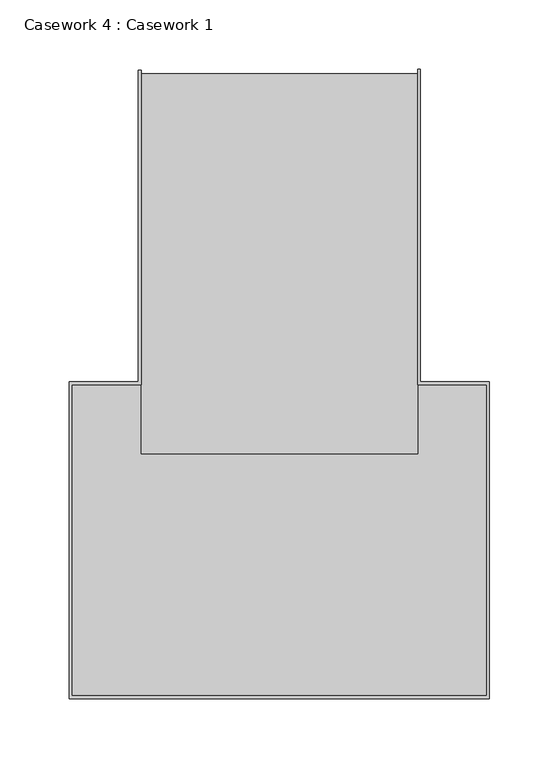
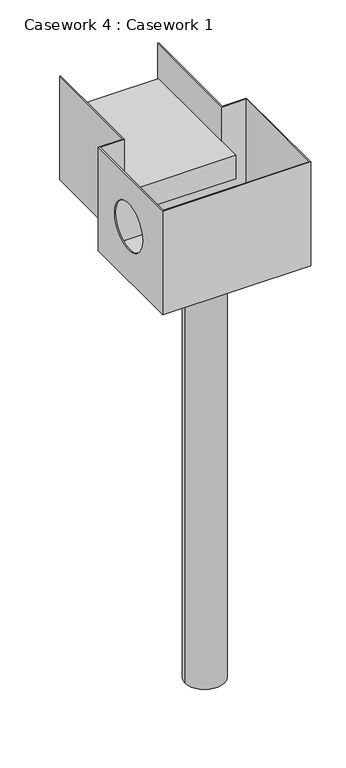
"""IFC4 building model written with IfcOpenShell, lengths in millimetres: furniture geometry, Casework 4 : Casework 1."""

from ifc_helpers import new_model, si_unit, point, frame, frame_2d, origin, place, context, project, spatial, polyline, circle_curve, trimmed, segment, composite_curve, outline, extrude, source, transform, mapped, element, save
from ifc_brep_helpers import plane_surface, revolved_surface, advanced_brep


def casework_4_casework_1_e42cd1c2(model_context):
    return source(origin(), model_context, "Body", "SolidModel", [
        extrude(outline(polyline([(8723.3955404, -20351.8069271), (8723.3955404, -20626.7162366), (8523.3955404, -20626.7162366), (8523.3955404, -20351.8069271), (8723.3955404, -20351.8069271)])), frame((0.0, 0.0, -8703.1653558), z_axis=(0.0, 0.0, 1.0), x_axis=(1.0, 0.0, 0.0)), (0.0, 0.0, 1.0), 50.0),
        advanced_brep(
        [(8773.3955404, -20801.7162366, -8578.1653558), (8473.3955404, -20801.7162366, -8578.1653558), (8473.3955404, -20576.7162366, -8578.1653558), (8523.3955404, -20576.7162366, -8578.1653558), (8523.3955404, -20495.4533887, -8578.1653558), (8523.3955404, -20349.4485861, -8578.1653558), (8521.3955404, -20349.4485861, -8578.1653558), (8521.3955404, -20574.7162366, -8578.1653558), (8471.3955404, -20574.7162366, -8578.1653558), (8471.3955404, -20803.7162366, -8578.1653558), (8775.3955404, -20803.7162366, -8578.1653558), (8775.3955404, -20574.7162366, -8578.1653558), (8725.3955404, -20574.7162366, -8578.1653558), (8725.3955404, -20348.5052497, -8578.1653558), (8723.3955404, -20348.5052497, -8578.1653558), (8723.3955404, -20495.4533887, -8578.1653558), (8723.3955404, -20576.7162366, -8578.1653558), (8773.3955404, -20576.7162366, -8578.1653558), (8773.3955404, -20801.7162366, -8803.1653558), (8773.3955404, -20576.7162366, -8803.1653558), (8723.3955404, -20576.7162366, -8803.1653558), (8723.3955404, -20348.5052497, -8803.1653558), (8725.3955404, -20348.5052497, -8803.1653558), (8725.3955404, -20574.7162366, -8803.1653558), (8775.3955404, -20574.7162366, -8803.1653558), (8775.3955404, -20803.7162366, -8803.1653558), (8471.3955404, -20803.7162366, -8803.1653558), (8471.3955404, -20574.7162366, -8803.1653558), (8521.3955404, -20574.7162366, -8803.1653558), (8521.3955404, -20349.4485861, -8803.1653558), (8523.3955404, -20349.4485861, -8803.1653558), (8523.3955404, -20576.7162366, -8803.1653558), (8473.3955404, -20576.7162366, -8803.1653558), (8473.3955404, -20801.7162366, -8803.1653558), (8473.3955404, -20731.7942765, -8686.159432), (8473.3955404, -20631.7942765, -8686.159432), (8523.3955404, -20576.7162366, -8798.1653558), (8723.3955404, -20576.7162366, -8798.1653558), (8723.3955404, -20576.7162366, -8703.1653558), (8523.3955404, -20576.7162366, -8703.1653558), (8523.3955404, -20559.691816, -8703.1653558), (8523.3955404, -20559.691816, -8798.1653558), (8471.3955404, -20631.7942765, -8686.159432), (8471.3955404, -20731.7942765, -8686.159432), (8723.3955404, -20559.691816, -8798.1653558), (8723.3955404, -20559.691816, -8703.1653558)],
        [
            (0, 1),
            (1, 2),
            (2, 3),
            (3, 4),
            (4, 5),
            (5, 6),
            (6, 7),
            (7, 8),
            (8, 9),
            (9, 10),
            (10, 11),
            (11, 12),
            (12, 13),
            (13, 14),
            (14, 15),
            (15, 16),
            (16, 17),
            (17, 0),
            (18, 19),
            (19, 20),
            (20, 21),
            (21, 22),
            (22, 23),
            (23, 24),
            (24, 25),
            (25, 26),
            (26, 27),
            (27, 28),
            (28, 29),
            (29, 30),
            (30, 31),
            (31, 32),
            (32, 33),
            (33, 18),
            (0, 18),
            (33, 1),
            (32, 2),
            (34, 35, circle_curve(frame((8473.3955404, -20681.7942765, -8686.159432), z_axis=(-1.0, 0.0, 0.0), x_axis=(0.0, -1.0, 0.0)), 50.0)),
            (35, 34, circle_curve(frame((8473.3955404, -20681.7942765, -8686.159432), z_axis=(-1.0, 0.0, 0.0), x_axis=(0.0, -1.0, 0.0)), 50.0)),
            (31, 36),
            (36, 37),
            (37, 20),
            (19, 17),
            (16, 38),
            (38, 39),
            (39, 3),
            (30, 5),
            (39, 40),
            (40, 41),
            (41, 36),
            (7, 28),
            (27, 8),
            (26, 9),
            (42, 43, circle_curve(frame((8471.3955404, -20681.7942765, -8686.159432), z_axis=(1.0, 0.0, 0.0), x_axis=(0.0, -1.0, 0.0)), 50.0)),
            (43, 42, circle_curve(frame((8471.3955404, -20681.7942765, -8686.159432), z_axis=(1.0, 0.0, 0.0), x_axis=(0.0, -1.0, 0.0)), 50.0)),
            (25, 10),
            (24, 11),
            (23, 12),
            (29, 6),
            (22, 13),
            (21, 14),
            (37, 44),
            (44, 45),
            (45, 38),
            (42, 35),
            (34, 43),
            (44, 41),
            (40, 45),
        ],
        [
            plane_surface(frame((8773.3955404, -20801.7162366, -8578.1653558), z_axis=(0.0, 0.0, 1.0), x_axis=(-1.0, 0.0, 0.0))),
            plane_surface(frame((8773.3955404, -20801.7162366, -8803.1653558), z_axis=(0.0, 0.0, -1.0), x_axis=(1.0, 0.0, 0.0))),
            plane_surface(frame((8773.3955404, -20801.7162366, -8578.1653558), z_axis=(0.0, 1.0, 0.0), x_axis=(0.0, 0.0, -1.0))),
            plane_surface(frame((8473.3955404, -20801.7162366, -8578.1653558), z_axis=(1.0, 0.0, 0.0), x_axis=(0.0, 0.0, -1.0))),
            plane_surface(frame((8473.3955404, -20576.7162366, -8578.1653558), z_axis=(0.0, -1.0, 0.0), x_axis=(0.0, 0.0, -1.0))),
            plane_surface(frame((8523.3955404, -20576.7162366, -8578.1653558), z_axis=(1.0, 0.0, 0.0), x_axis=(0.0, 0.0, -1.0))),
            plane_surface(frame((8521.3955404, -20574.7162366, -8578.1653558), z_axis=(0.0, 1.0, 0.0), x_axis=(0.0, 0.0, -1.0))),
            plane_surface(frame((8471.3955404, -20574.7162366, -8578.1653558), z_axis=(-1.0, 0.0, 0.0), x_axis=(0.0, 0.0, -1.0))),
            plane_surface(frame((8471.3955404, -20803.7162366, -8578.1653558), z_axis=(0.0, -1.0, 0.0), x_axis=(0.0, 0.0, -1.0))),
            plane_surface(frame((8775.3955404, -20803.7162366, -8578.1653558), z_axis=(1.0, 0.0, 0.0), x_axis=(0.0, 0.0, -1.0))),
            plane_surface(frame((8775.3955404, -20574.7162366, -8578.1653558), z_axis=(0.0, 1.0, 0.0), x_axis=(0.0, 0.0, -1.0))),
            plane_surface(frame((8773.3955404, -20576.7162366, -8578.1653558), z_axis=(-1.0, 0.0, 0.0), x_axis=(0.0, 0.0, -1.0))),
            plane_surface(frame((8523.3955404, -20349.4485861, -8578.1653558), z_axis=(0.0, 1.0, 0.0), x_axis=(0.0, 0.0, -1.0))),
            plane_surface(frame((8521.3955404, -20349.4485861, -8578.1653558), z_axis=(-1.0, 0.0, 0.0), x_axis=(0.0, 0.0, -1.0))),
            plane_surface(frame((8725.3955404, -20574.7162366, -8578.1653558), z_axis=(1.0, 0.0, 0.0), x_axis=(0.0, 0.0, -1.0))),
            plane_surface(frame((8725.3955404, -20348.5052497, -8578.1653558), z_axis=(0.0, 1.0, 0.0), x_axis=(0.0, 0.0, -1.0))),
            plane_surface(frame((8723.3955404, -20348.5052497, -8578.1653558), z_axis=(-1.0, 0.0, 0.0), x_axis=(0.0, 0.0, -1.0))),
            revolved_surface(polyline([(8473.3955404, -20731.7942765, -8686.159432), (8471.3955404, -20731.7942765, -8686.159432)]), (8456.2977513, -20681.7942765, -8686.159432), (1.0, 0.0, 0.0)),
            plane_surface(frame((8723.3955404, -20559.691816, -8703.1653558), z_axis=(0.0, 1.0, 0.0), x_axis=(0.0, 0.0, -1.0))),
            plane_surface(frame((8723.3955404, -20576.7162366, -8703.1653558), z_axis=(0.0, 0.0, 1.0), x_axis=(0.0, 1.0, 0.0))),
            plane_surface(frame((8523.3955404, -20576.7162366, -8798.1653558), z_axis=(0.0, 0.0, -1.0), x_axis=(0.0, 1.0, 0.0))),
        ],
        [
            (0, [[1, 2, 3, 4, 5, 6, 7, 8, 9, 10, 11, 12, 13, 14, 15, 16, 17, 18]]),
            (1, [[19, 20, 21, 22, 23, 24, 25, 26, 27, 28, 29, 30, 31, 32, 33, 34]]),
            (2, [[-1, 35, -34, 36]]),
            (3, [[-2, -36, -33, 37], [38, 39]]),
            (4, [[-3, -37, -32, 40, 41, 42, -20, 43, -17, 44, 45, 46]]),
            (5, [[-31, 47, -5, -4, -46, 48, 49, 50, -40]]),
            (6, [[-8, 51, -28, 52]]),
            (7, [[-9, -52, -27, 53], [54, 55]]),
            (8, [[-10, -53, -26, 56]]),
            (9, [[-11, -56, -25, 57]]),
            (10, [[-12, -57, -24, 58]]),
            (11, [[-18, -43, -19, -35]]),
            (12, [[-6, -47, -30, 59]]),
            (13, [[-7, -59, -29, -51]]),
            (14, [[-13, -58, -23, 60]]),
            (15, [[-14, -60, -22, 61]]),
            (16, [[-21, -42, 62, 63, 64, -44, -16, -15, -61]]),
            (17, [[65, -38, 66, -54]]),
            (17, [[-65, -55, -66, -39]]),
            (18, [[67, -49, 68, -63]]),
            (19, [[-45, -64, -68, -48]]),
            (20, [[-41, -50, -67, -62]]),
        ],
    ),
        extrude(outline(composite_curve([segment(trimmed(circle_curve(frame_2d((8623.3955404, -20689.2162366)), 40.0), [point((8583.3955404, -20689.2162366))], [point((8663.3955404, -20689.2162366))], False, "CARTESIAN"), True, "CONTINUOUS"), segment(trimmed(circle_curve(frame_2d((8623.3955404, -20689.2162366)), 40.0), [point((8663.3955404, -20689.2162366))], [point((8583.3955404, -20689.2162366))], False, "CARTESIAN"), True, "CONTINUOUS")], self_intersect=False)), frame((0.0, 0.0, -9712.1415762), z_axis=(0.0, 0.0, 1.0), x_axis=(1.0, 0.0, 0.0)), (0.0, 0.0, 1.0), 908.9762205),
        extrude(outline(polyline([(8773.3955404, -20576.7162366), (8773.3955404, -20801.7162366), (8473.3955404, -20801.7162366), (8473.3955404, -20576.7162366), (8523.3955404, -20576.7162366), (8523.3955404, -20541.7162366), (8723.3955404, -20541.7162366), (8723.3955404, -20576.7162366), (8773.3955404, -20576.7162366)])), frame((0.0, 0.0, -8803.1653558), z_axis=(0.0, 0.0, 1.0), x_axis=(1.0, 0.0, 0.0)), (0.0, 0.0, 1.0), 5.0),
    ])


if __name__ == "__main__":
    model = new_model("IFC4")
    model_context = context("Model", 3, world=origin())
    ifc_project = project(units=[si_unit("LENGTHUNIT", "METRE", prefix="MILLI")], contexts=[model_context])
    site = spatial("IfcSite", under=ifc_project)
    building = spatial("IfcBuilding", under=site)
    placement = place(None, origin())
    casework_4_casework_1_shape = casework_4_casework_1_e42cd1c2(model_context)
    element("IfcFurniture", 1, ObjectType="Casework 4 : Casework 1", at=placement, inside=building, context=model_context, shape_type="MappedRepresentation", body=[
        mapped(casework_4_casework_1_shape, transform((0.0, 0.0, 0.0), x_axis=(1.0, 0.0, 0.0), y_axis=(0.0, 1.0, 0.0), z_axis=(0.0, 0.0, 1.0))),
    ])
    save(model, "model.ifc")
